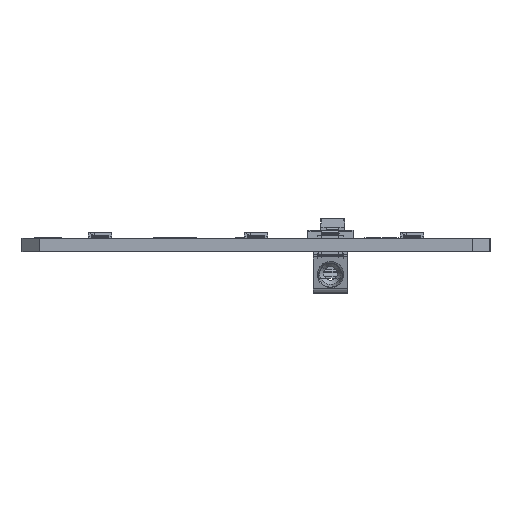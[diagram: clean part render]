
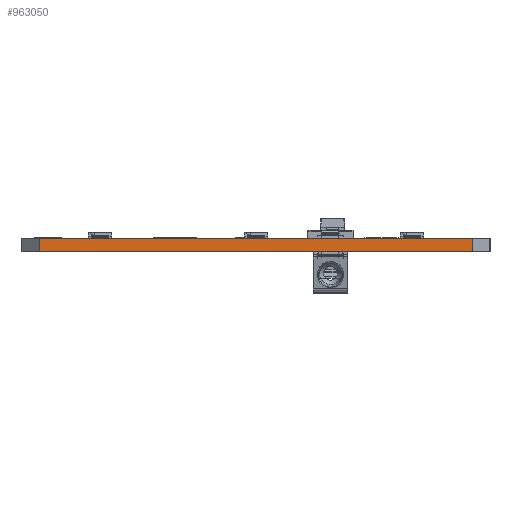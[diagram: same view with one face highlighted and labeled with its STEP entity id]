
A CAD part, left-side view. The second image highlights one B-rep face of the part: STEP entity #963050.
In plain terms, the highlighted planar face has unit normal (-1, 0, 0).
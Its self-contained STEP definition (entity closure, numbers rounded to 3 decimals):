
#953260=CARTESIAN_POINT('',(97.626,60.018,0.));
#953270=DIRECTION('',(0.,1.,0.));
#953280=VECTOR('',#953270,0.039);
#953290=LINE('',#953260,#953280);
#953300=CARTESIAN_POINT('',(97.626,60.018,0.));
#953310=VERTEX_POINT('',#953300);
#953320=CARTESIAN_POINT('',(97.626,111.018,0.));
#953330=VERTEX_POINT('',#953320);
#953340=EDGE_CURVE('',#953310,#953330,#953290,.T.);
#957320=CARTESIAN_POINT('',(97.626,60.018,-1.6));
#957330=VERTEX_POINT('',#957320);
#957800=CARTESIAN_POINT('',(97.626,111.018,-1.6));
#957810=VERTEX_POINT('',#957800);
#957840=CARTESIAN_POINT('',(97.626,60.018,-1.6));
#957850=DIRECTION('',(0.,1.,0.));
#957860=VECTOR('',#957850,0.039);
#957870=LINE('',#957840,#957860);
#957880=EDGE_CURVE('',#957330,#957810,#957870,.T.);
#961340=CARTESIAN_POINT('',(97.626,60.018,0.));
#961350=DIRECTION('',(0.,0.,-1.));
#961360=VECTOR('',#961350,1.);
#961370=LINE('',#961340,#961360);
#961380=EDGE_CURVE('',#953310,#957330,#961370,.T.);
#962760=CARTESIAN_POINT('',(97.626,111.018,0.));
#962770=DIRECTION('',(0.,0.,-1.));
#962780=VECTOR('',#962770,1.);
#962790=LINE('',#962760,#962780);
#962800=EDGE_CURVE('',#953330,#957810,#962790,.T.);
#962940=CARTESIAN_POINT('',(97.626,60.018,0.));
#962950=DIRECTION('',(1.,0.,0.));
#962960=DIRECTION('',(0.,-1.,0.));
#962970=AXIS2_PLACEMENT_3D('',#962940,#962950,#962960);
#962980=PLANE('',#962970);
#962990=ORIENTED_EDGE('',*,*,#953340,.T.);
#963000=ORIENTED_EDGE('',*,*,#961380,.F.);
#963010=ORIENTED_EDGE('',*,*,#957880,.F.);
#963020=ORIENTED_EDGE('',*,*,#962800,.T.);
#963030=EDGE_LOOP('',(#963020,#963010,#963000,#962990));
#963040=FACE_OUTER_BOUND('',#963030,.T.);
#963050=ADVANCED_FACE('',(#963040),#962980,.F.);
